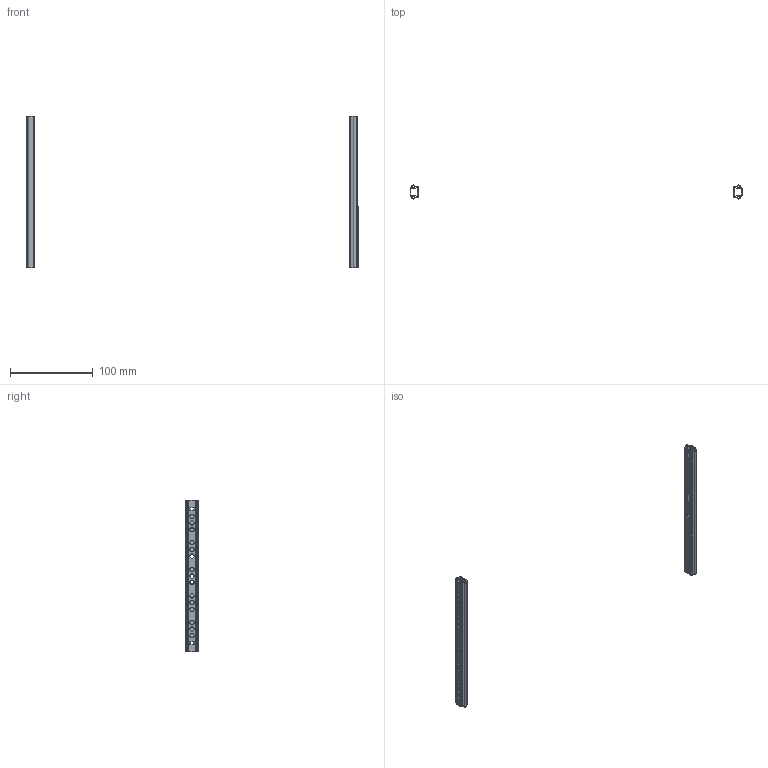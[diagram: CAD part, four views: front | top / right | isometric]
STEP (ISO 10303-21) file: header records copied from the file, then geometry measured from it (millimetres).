
FILE_DESCRIPTION(/* description */ (''),/* implementation_level */ '2;1');
FILE_NAME(/* name */ 'D:\$Workingspace\Designs\Katalog\Cadsoft\GTV Prowadnice\Prowadnice GTV_bryły 3D\PK-0-H17-182.stp',/* time_stamp */ '2016-11-22T08:47:48+01:00',/* author */ ('tomaszw'),/* organization */ (''),/* preprocessor_version */ 'ST-DEVELOPER v16.1',/* originating_system */ 'Autodesk Inventor 2016',/* authorisation */ '');
FILE_SCHEMA (('AUTOMOTIVE_DESIGN { 1 0 10303 214 3 1 1 }'));
Length unit declared in the file: millimetre
Products named in the file (3): PK-0-H17_1-182; PK-0-H17_2-182; PK-0-H17
Assembly tree (4 placements, depth 2):
  PK-0-H17
    PK-0-H17_1-182  x2
    PK-0-H17_2-182  x2
Bounding box: 400 x 16.69 x 182 mm (x, y, z)
Volume: 12786.1 mm3; surface area: 33943.9 mm2
Topology: 4 solids, 4 shells, 154 faces, 442 edges, 296 vertices
Faces by surface type: cylinder 90, plane 64
Full cylindrical faces by diameter (mm): 3.242 x4, 5 x2, 5.2 x30, 8 x2
Entity records: 2621 total; most frequent: DIRECTION 458, CARTESIAN_POINT 430, ORIENTED_EDGE 400, EDGE_CURVE 200, AXIS2_PLACEMENT_3D 174, VERTEX_POINT 146, EDGE_LOOP 142, LINE 110
